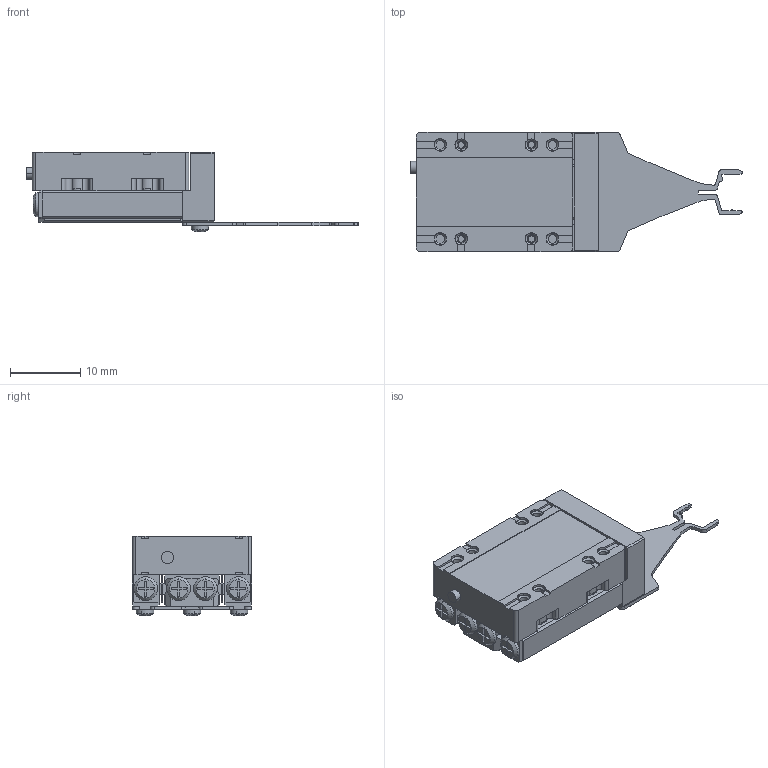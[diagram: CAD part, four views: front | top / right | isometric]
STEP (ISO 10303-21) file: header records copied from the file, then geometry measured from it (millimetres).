
FILE_DESCRIPTION (( 'STEP AP214' ), '1' );
FILE_NAME ('YGPU-P05.STEP', '2026-06-11T03:55:17', ( '' ), ( '' ), 'SwSTEP 2.0', 'SolidWorks 2022', '' );
FILE_SCHEMA (( 'AUTOMOTIVE_DESIGN' ));
Length unit declared in the file: millimetre
Products named in the file (1): YGPU-P05
Bounding box: 47.3 x 17 x 11.38 mm (x, y, z)
Volume: 3867.4 mm3; surface area: 4830.7 mm2
Topology: 26 solids, 26 shells, 908 faces, 2219 edges, 1381 vertices
Faces by surface type: plane 485, cylinder 235, cone 144, torus 22, sphere 22
Entity records: 36980 total; most frequent: DIRECTION 4855, CARTESIAN_POINT 4685, ORIENTED_EDGE 4422, EDGE_CURVE 2211, AXIS2_PLACEMENT_3D 1759, VERTEX_POINT 1377, VECTOR 1337, LINE 1337
